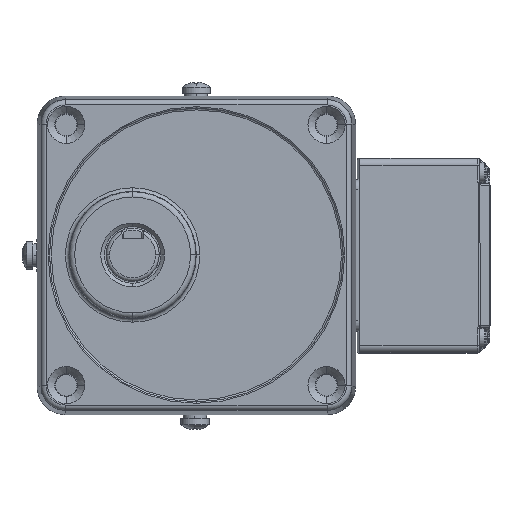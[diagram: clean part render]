
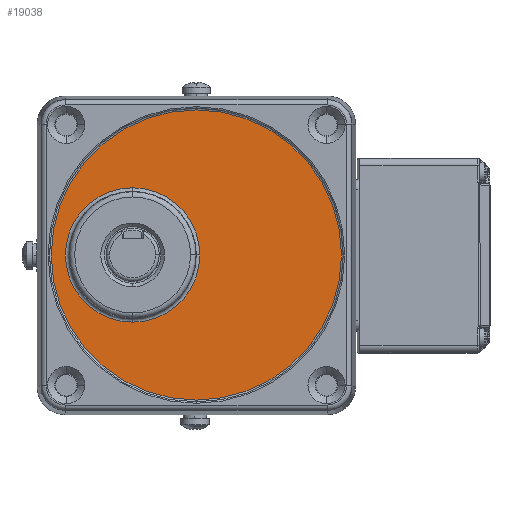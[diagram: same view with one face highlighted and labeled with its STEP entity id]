
A CAD part, top view. The second image highlights one B-rep face of the part: STEP entity #19038.
In plain terms, the highlighted planar face has unit normal (0, 0, 1) as drawn and (1, 0, 0) by its records, which use the part's own axes.
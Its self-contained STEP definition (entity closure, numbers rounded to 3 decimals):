
#1635 = DIRECTION ( 'NONE',  ( 0., 0., 1. ) ) ;
#2332 = ORIENTED_EDGE ( 'NONE', *, *, #56171, .F. ) ;
#4194 = EDGE_CURVE ( 'NONE', #60885, #59969, #8426, .T. ) ;
#4432 = DIRECTION ( 'NONE',  ( 1., 0., 0. ) ) ;
#4571 = FACE_BOUND ( 'NONE', #17293, .T. ) ;
#4778 = VERTEX_POINT ( 'NONE', #60266 ) ;
#5240 = ORIENTED_EDGE ( 'NONE', *, *, #4194, .F. ) ;
#8353 = CARTESIAN_POINT ( 'NONE',  ( 2703.292, -793.157, -18.983 ) ) ;
#8426 = CIRCLE ( 'NONE', #55856, 18.983 ) ;
#9296 = PLANE ( 'NONE',  #11015 ) ;
#11015 = AXIS2_PLACEMENT_3D ( 'NONE', #59406, #47829, #57938 ) ;
#11931 = ORIENTED_EDGE ( 'NONE', *, *, #34975, .F. ) ;
#15629 = DIRECTION ( 'NONE',  ( 0., 0., -1. ) ) ;
#16118 = DIRECTION ( 'NONE',  ( 1., 0., 0. ) ) ;
#17293 = EDGE_LOOP ( 'NONE', ( #11931, #5240, #42787 ) ) ;
#18639 = VERTEX_POINT ( 'NONE', #51714 ) ;
#19038 = ADVANCED_FACE ( 'NONE', ( #62352, #4571 ), #9296, .T. ) ;
#20145 = CARTESIAN_POINT ( 'NONE',  ( 2703.292, -793.157, 0. ) ) ;
#20467 = DIRECTION ( 'NONE',  ( 1., 0., 0. ) ) ;
#21032 = DIRECTION ( 'NONE',  ( -1., 0., 0. ) ) ;
#23312 = DIRECTION ( 'NONE',  ( -1., 0., 0. ) ) ;
#23622 = CARTESIAN_POINT ( 'NONE',  ( 2703.292, -775.157, 0. ) ) ;
#24581 = CARTESIAN_POINT ( 'NONE',  ( 2703.292, -793.157, 0. ) ) ;
#26843 = ORIENTED_EDGE ( 'NONE', *, *, #56957, .F. ) ;
#28638 = CARTESIAN_POINT ( 'NONE',  ( 2703.292, -775.157, 40.991 ) ) ;
#31191 = DIRECTION ( 'NONE',  ( 0., 0., -1. ) ) ;
#31199 = AXIS2_PLACEMENT_3D ( 'NONE', #49500, #21032, #59607 ) ;
#31743 = CIRCLE ( 'NONE', #49945, 18.983 ) ;
#32692 = CIRCLE ( 'NONE', #34754, 18.983 ) ;
#34754 = AXIS2_PLACEMENT_3D ( 'NONE', #24581, #4432, #39164 ) ;
#34786 = CARTESIAN_POINT ( 'NONE',  ( 2703.292, -793.157, 0. ) ) ;
#34900 = CARTESIAN_POINT ( 'NONE',  ( 2703.292, -775.157, 0. ) ) ;
#34975 = EDGE_CURVE ( 'NONE', #59969, #4778, #32692, .T. ) ;
#35061 = EDGE_CURVE ( 'NONE', #4778, #60885, #31743, .T. ) ;
#38790 = CARTESIAN_POINT ( 'NONE',  ( 2703.292, -734.166, 0. ) ) ;
#39164 = DIRECTION ( 'NONE',  ( 0., 0., -1. ) ) ;
#40884 = VERTEX_POINT ( 'NONE', #38790 ) ;
#41618 = EDGE_LOOP ( 'NONE', ( #26843, #2332, #61015 ) ) ;
#42787 = ORIENTED_EDGE ( 'NONE', *, *, #35061, .F. ) ;
#45652 = EDGE_CURVE ( 'NONE', #50464, #40884, #54406, .T. ) ;
#46083 = CIRCLE ( 'NONE', #57166, 40.991 ) ;
#47152 = CIRCLE ( 'NONE', #62262, 40.991 ) ;
#47829 = DIRECTION ( 'NONE',  ( 1., 0., 0. ) ) ;
#49500 = CARTESIAN_POINT ( 'NONE',  ( 2703.292, -775.157, 0. ) ) ;
#49945 = AXIS2_PLACEMENT_3D ( 'NONE', #20145, #20467, #31191 ) ;
#50464 = VERTEX_POINT ( 'NONE', #28638 ) ;
#51714 = CARTESIAN_POINT ( 'NONE',  ( 2703.292, -775.157, -40.991 ) ) ;
#53954 = CARTESIAN_POINT ( 'NONE',  ( 2703.292, -793.157, 18.983 ) ) ;
#54406 = CIRCLE ( 'NONE', #31199, 40.991 ) ;
#55856 = AXIS2_PLACEMENT_3D ( 'NONE', #34786, #16118, #1635 ) ;
#56171 = EDGE_CURVE ( 'NONE', #40884, #18639, #47152, .T. ) ;
#56957 = EDGE_CURVE ( 'NONE', #18639, #50464, #46083, .T. ) ;
#57166 = AXIS2_PLACEMENT_3D ( 'NONE', #34900, #58930, #15629 ) ;
#57938 = DIRECTION ( 'NONE',  ( 0., 1., 0. ) ) ;
#58930 = DIRECTION ( 'NONE',  ( -1., 0., 0. ) ) ;
#59406 = CARTESIAN_POINT ( 'NONE',  ( 2703.292, -775.157, 0. ) ) ;
#59607 = DIRECTION ( 'NONE',  ( 0., 0., 1. ) ) ;
#59969 = VERTEX_POINT ( 'NONE', #8353 ) ;
#60266 = CARTESIAN_POINT ( 'NONE',  ( 2703.292, -774.175, 0. ) ) ;
#60885 = VERTEX_POINT ( 'NONE', #53954 ) ;
#61015 = ORIENTED_EDGE ( 'NONE', *, *, #45652, .F. ) ;
#62202 = DIRECTION ( 'NONE',  ( 0., 0., 1. ) ) ;
#62262 = AXIS2_PLACEMENT_3D ( 'NONE', #23622, #23312, #62202 ) ;
#62352 = FACE_OUTER_BOUND ( 'NONE', #41618, .T. ) ;
